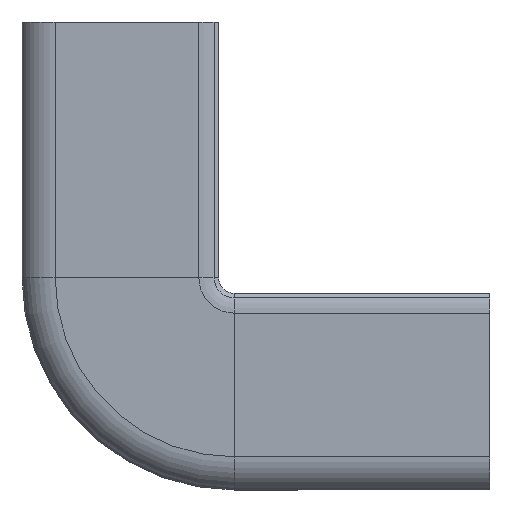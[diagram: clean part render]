
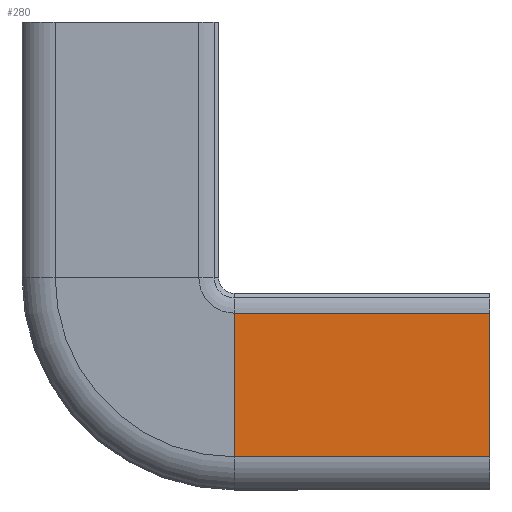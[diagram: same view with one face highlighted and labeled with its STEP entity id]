
A CAD part, left-side view. The second image highlights one B-rep face of the part: STEP entity #280.
In plain terms, the highlighted planar face has unit normal (-1, 0, 0).
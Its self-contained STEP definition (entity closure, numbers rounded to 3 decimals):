
#55 = CARTESIAN_POINT ( 'NONE',  ( -12.5, 7.55, -25. ) ) ;
#197 = EDGE_LOOP ( 'NONE', ( #2631, #1335, #1111, #642 ) ) ;
#280 = ADVANCED_FACE ( 'NONE', ( #760 ), #2929, .F. ) ;
#336 = VECTOR ( 'NONE', #1637, 1000. ) ;
#437 = DIRECTION ( 'NONE',  ( 0., -1., 0. ) ) ;
#486 = LINE ( 'NONE', #1494, #2545 ) ;
#565 = CARTESIAN_POINT ( 'NONE',  ( -12.5, -14.15, -25. ) ) ;
#642 = ORIENTED_EDGE ( 'NONE', *, *, #2405, .F. ) ;
#668 = CARTESIAN_POINT ( 'NONE',  ( -12.5, 7.55, -25. ) ) ;
#760 = FACE_OUTER_BOUND ( 'NONE', #197, .T. ) ;
#1038 = LINE ( 'NONE', #2705, #336 ) ;
#1073 = VECTOR ( 'NONE', #3377, 1000. ) ;
#1111 = ORIENTED_EDGE ( 'NONE', *, *, #1536, .F. ) ;
#1148 = VERTEX_POINT ( 'NONE', #565 ) ;
#1335 = ORIENTED_EDGE ( 'NONE', *, *, #3278, .T. ) ;
#1336 = CARTESIAN_POINT ( 'NONE',  ( -12.5, -14.15, -37.19 ) ) ;
#1407 = VERTEX_POINT ( 'NONE', #668 ) ;
#1494 = CARTESIAN_POINT ( 'NONE',  ( -12.5, 7.55, -25. ) ) ;
#1536 = EDGE_CURVE ( 'NONE', #1407, #1148, #486, .T. ) ;
#1541 = EDGE_CURVE ( 'NONE', #2720, #2620, #3393, .T. ) ;
#1637 = DIRECTION ( 'NONE',  ( 0., 0., 1. ) ) ;
#1911 = DIRECTION ( 'NONE',  ( 1., 0., 0. ) ) ;
#1927 = CARTESIAN_POINT ( 'NONE',  ( -12.5, 7.55, -37.19 ) ) ;
#2024 = LINE ( 'NONE', #2288, #1073 ) ;
#2288 = CARTESIAN_POINT ( 'NONE',  ( -12.5, 7.55, -25. ) ) ;
#2347 = AXIS2_PLACEMENT_3D ( 'NONE', #55, #1911, #2983 ) ;
#2405 = EDGE_CURVE ( 'NONE', #2720, #1407, #2024, .T. ) ;
#2521 = DIRECTION ( 'NONE',  ( 0., -1., 0. ) ) ;
#2531 = CARTESIAN_POINT ( 'NONE',  ( -12.5, 7.55, -37.19 ) ) ;
#2545 = VECTOR ( 'NONE', #2521, 1000. ) ;
#2620 = VERTEX_POINT ( 'NONE', #1336 ) ;
#2631 = ORIENTED_EDGE ( 'NONE', *, *, #1541, .T. ) ;
#2705 = CARTESIAN_POINT ( 'NONE',  ( -12.5, -14.15, -21.161 ) ) ;
#2720 = VERTEX_POINT ( 'NONE', #1927 ) ;
#2929 = PLANE ( 'NONE',  #2347 ) ;
#2983 = DIRECTION ( 'NONE',  ( 0., 0., -1. ) ) ;
#3232 = VECTOR ( 'NONE', #437, 1000. ) ;
#3278 = EDGE_CURVE ( 'NONE', #2620, #1148, #1038, .T. ) ;
#3377 = DIRECTION ( 'NONE',  ( 0., 0., 1. ) ) ;
#3393 = LINE ( 'NONE', #2531, #3232 ) ;
